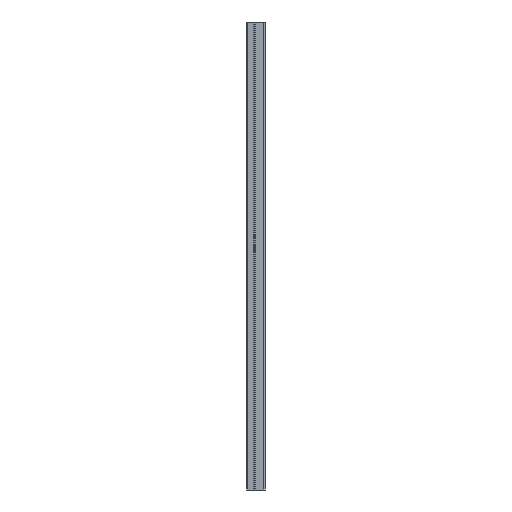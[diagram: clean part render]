
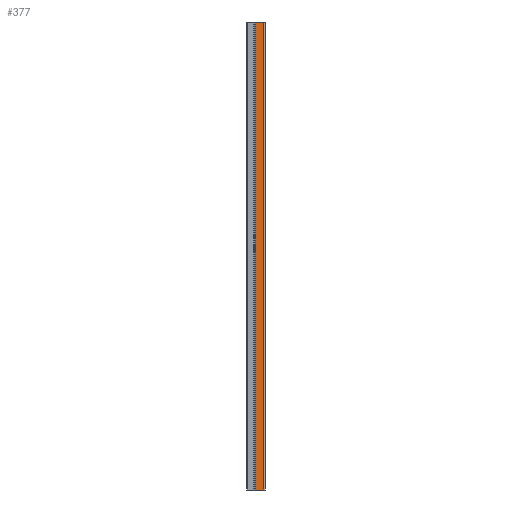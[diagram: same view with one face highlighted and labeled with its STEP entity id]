
A CAD part, left-side view. The second image highlights one B-rep face of the part: STEP entity #377.
In plain terms, the highlighted planar face has unit normal (-1, 0, 0).
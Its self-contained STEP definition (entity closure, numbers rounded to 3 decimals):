
#95 = CARTESIAN_POINT ( 'NONE',  ( -12.5, -9.5, -500. ) ) ;
#96 = FACE_OUTER_BOUND ( 'NONE', #851, .T. ) ;
#150 = EDGE_CURVE ( 'NONE', #1578, #1703, #908, .T. ) ;
#270 = LINE ( 'NONE', #1005, #541 ) ;
#302 = EDGE_CURVE ( 'NONE', #1212, #328, #979, .T. ) ;
#328 = VERTEX_POINT ( 'NONE', #1697 ) ;
#349 = ORIENTED_EDGE ( 'NONE', *, *, #1252, .T. ) ;
#377 = ADVANCED_FACE ( 'NONE', ( #96 ), #963, .T. ) ;
#411 = ORIENTED_EDGE ( 'NONE', *, *, #302, .F. ) ;
#523 = EDGE_CURVE ( 'NONE', #328, #1703, #1291, .T. ) ;
#539 = CARTESIAN_POINT ( 'NONE',  ( -12.5, 9.5, -500. ) ) ;
#541 = VECTOR ( 'NONE', #576, 1000. ) ;
#576 = DIRECTION ( 'NONE',  ( 0., -1., 0. ) ) ;
#595 = AXIS2_PLACEMENT_3D ( 'NONE', #700, #1724, #673 ) ;
#610 = ORIENTED_EDGE ( 'NONE', *, *, #150, .T. ) ;
#673 = DIRECTION ( 'NONE',  ( 0., 0., 1. ) ) ;
#700 = CARTESIAN_POINT ( 'NONE',  ( -12.5, -12.5, -500. ) ) ;
#828 = DIRECTION ( 'NONE',  ( 0., 0., 1. ) ) ;
#851 = EDGE_LOOP ( 'NONE', ( #349, #610, #889, #411 ) ) ;
#889 = ORIENTED_EDGE ( 'NONE', *, *, #523, .F. ) ;
#908 = LINE ( 'NONE', #1154, #1258 ) ;
#963 = PLANE ( 'NONE',  #595 ) ;
#979 = LINE ( 'NONE', #1712, #1197 ) ;
#985 = VECTOR ( 'NONE', #1152, 1000. ) ;
#1005 = CARTESIAN_POINT ( 'NONE',  ( -12.5, -12.5, -500. ) ) ;
#1152 = DIRECTION ( 'NONE',  ( 0., -1., 0. ) ) ;
#1154 = CARTESIAN_POINT ( 'NONE',  ( -12.5, -9.5, -500. ) ) ;
#1197 = VECTOR ( 'NONE', #828, 1000. ) ;
#1212 = VERTEX_POINT ( 'NONE', #539 ) ;
#1252 = EDGE_CURVE ( 'NONE', #1212, #1578, #270, .T. ) ;
#1258 = VECTOR ( 'NONE', #1735, 1000. ) ;
#1291 = LINE ( 'NONE', #1875, #985 ) ;
#1439 = CARTESIAN_POINT ( 'NONE',  ( -12.5, -9.5, 500. ) ) ;
#1578 = VERTEX_POINT ( 'NONE', #95 ) ;
#1697 = CARTESIAN_POINT ( 'NONE',  ( -12.5, 9.5, 500. ) ) ;
#1703 = VERTEX_POINT ( 'NONE', #1439 ) ;
#1712 = CARTESIAN_POINT ( 'NONE',  ( -12.5, 9.5, -500. ) ) ;
#1724 = DIRECTION ( 'NONE',  ( -1., 0., 0. ) ) ;
#1735 = DIRECTION ( 'NONE',  ( 0., 0., 1. ) ) ;
#1875 = CARTESIAN_POINT ( 'NONE',  ( -12.5, -12.5, 500. ) ) ;
